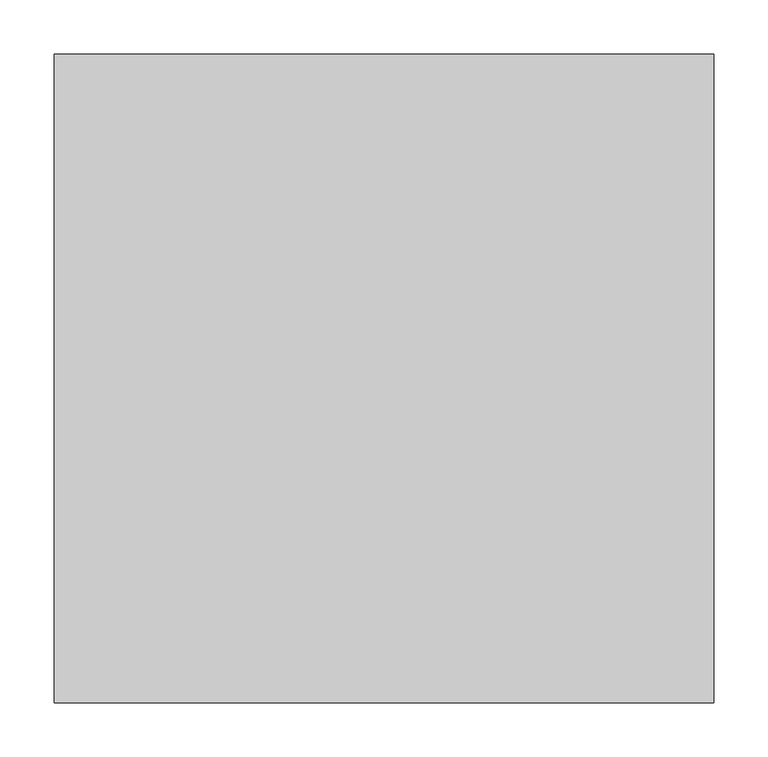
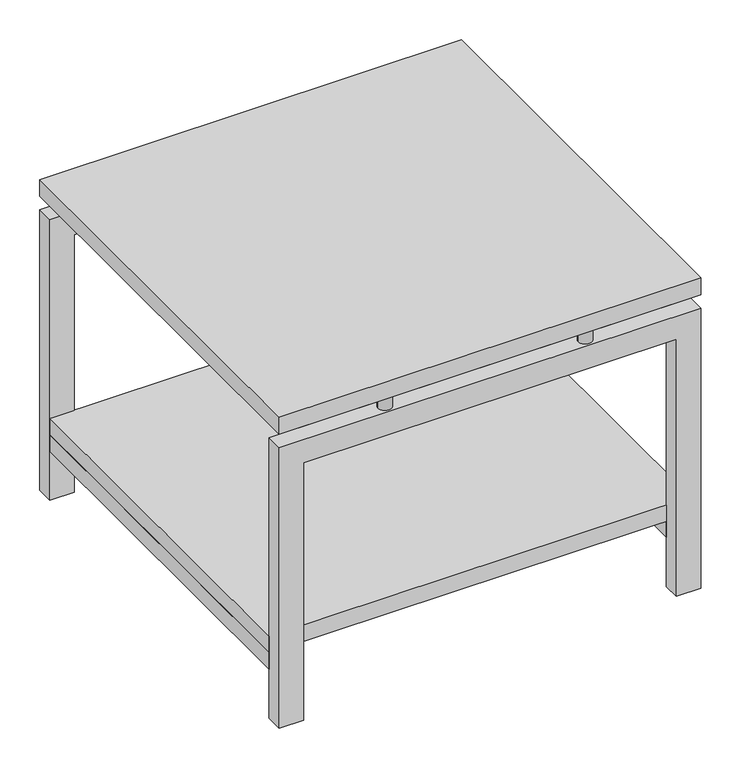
"""IFC4 building model written with IfcOpenShell, lengths in millimetres: furniture geometry, Mobiliário_MobiliáriodeEscritório_LinhaPERFECTA_Mesa de Centro - ZMC 0606_Marelli : Mobiliário_MobiliáriodeEscritório_LinhaPERFECTA_Mesa de Centro - ZMC 0606_Marelli."""

from ifc_helpers import new_model, si_unit, point, frame, frame_2d, origin, place, context, project, spatial, polyline, circle_curve, trimmed, segment, composite_curve, outline, extrude, source, transform, mapped, element, save


def furniture_a22a01db(model_context):
    return source(origin(), model_context, "Body", "SweptSolid", [
        extrude(outline(polyline([(610.0, 0.0), (0.0, 0.0), (0.0, 600.0), (610.0, 600.0), (610.0, 0.0)])), frame((0.0, 0.0, 449.3107024), z_axis=(0.0, 0.0, 1.0), x_axis=(1.0, 0.0, 0.0)), (0.0, 0.0, 1.0), 25.6892966),
        extrude(outline(polyline([(0.0, 35.0000007), (393.6999879, 35.0000007), (393.6999879, 575.0000044), (0.0, 575.0000044), (0.0, 610.0), (428.7178023, 610.0), (428.7178023, 0.0), (0.0, 0.0), (0.0, 35.0000007)])), frame((0.0, 0.0, 0.0), z_axis=(0.0, 1.0, 0.0), x_axis=(0.0, 0.0, 1.0)), (0.0, 0.0, 1.0), 25.0),
        extrude(outline(polyline([(0.0, 35.0000007), (393.6999879, 35.0000007), (393.6999879, 575.0000044), (0.0, 575.0000044), (0.0, 610.0), (428.7178023, 610.0), (428.7178023, 0.0), (0.0, 0.0), (0.0, 35.0000007)])), frame((0.0, 575.0, 0.0), z_axis=(0.0, 1.0, 0.0), x_axis=(0.0, 0.0, 1.0)), (0.0, 0.0, 1.0), 25.0),
        extrude(outline(polyline([(610.0, 575.0), (610.0, 25.0), (575.0000044, 25.0), (575.0000044, 575.0), (610.0, 575.0)])), frame((0.0, 0.0, 75.0), z_axis=(0.0, 0.0, 1.0), x_axis=(1.0, 0.0, 0.0)), (0.0, 0.0, 1.0), 25.0),
        extrude(outline(polyline([(34.9999956, 575.0), (34.9999956, 25.0), (0.0, 25.0), (0.0, 575.0), (34.9999956, 575.0)])), frame((0.0, 0.0, 75.0), z_axis=(0.0, 0.0, 1.0), x_axis=(1.0, 0.0, 0.0)), (0.0, 0.0, 1.0), 25.0),
        extrude(outline(polyline([(610.0, 575.0), (610.0, 25.0), (0.0, 25.0), (0.0, 575.0), (610.0, 575.0)])), frame((0.0, 0.0, 100.0), z_axis=(0.0, 0.0, 1.0), x_axis=(1.0, 0.0, 0.0)), (0.0, 0.0, 1.0), 25.0),
        extrude(outline(composite_curve([segment(trimmed(circle_curve(frame_2d((450.0001999, 587.5002)), 10.0), [point((440.0001999, 587.5002))], [point((460.0001999, 587.5002))], False, "CARTESIAN"), True, "CONTINUOUS"), segment(trimmed(circle_curve(frame_2d((450.0001999, 587.5002)), 10.0), [point((460.0001999, 587.5002))], [point((440.0001999, 587.5002))], False, "CARTESIAN"), True, "CONTINUOUS")], self_intersect=False)), frame((0.0, 0.0, 428.7178023), z_axis=(0.0, 0.0, 1.0), x_axis=(1.0, 0.0, 0.0)), (0.0, 0.0, 1.0), 20.5929),
        extrude(outline(composite_curve([segment(trimmed(circle_curve(frame_2d((160.0000004, 587.5002005)), 10.0000005), [point((149.9999999, 587.5002005))], [point((170.0000009, 587.5002005))], False, "CARTESIAN"), True, "CONTINUOUS"), segment(trimmed(circle_curve(frame_2d((160.0000004, 587.5002005)), 10.0000005), [point((170.0000009, 587.5002005))], [point((149.9999999, 587.5002005))], False, "CARTESIAN"), True, "CONTINUOUS")], self_intersect=False)), frame((0.0, 0.0, 428.7178023), z_axis=(0.0, 0.0, 1.0), x_axis=(1.0, 0.0, 0.0)), (0.0, 0.0, 1.0), 20.5929),
        extrude(outline(composite_curve([segment(trimmed(circle_curve(frame_2d((159.9999999, 12.4999)), 10.0), [point((149.9999999, 12.4999))], [point((169.9999999, 12.4999))], False, "CARTESIAN"), True, "CONTINUOUS"), segment(trimmed(circle_curve(frame_2d((159.9999999, 12.4999)), 10.0), [point((169.9999999, 12.4999))], [point((149.9999999, 12.4999))], False, "CARTESIAN"), True, "CONTINUOUS")], self_intersect=False)), frame((0.0, 0.0, 428.7178023), z_axis=(0.0, 0.0, 1.0), x_axis=(1.0, 0.0, 0.0)), (0.0, 0.0, 1.0), 20.5929),
        extrude(outline(composite_curve([segment(trimmed(circle_curve(frame_2d((450.0002004, 12.4998999)), 9.9999999), [point((440.0002005, 12.4998999))], [point((460.0002003, 12.4998999))], False, "CARTESIAN"), True, "CONTINUOUS"), segment(trimmed(circle_curve(frame_2d((450.0002004, 12.4998999)), 9.9999999), [point((460.0002003, 12.4998999))], [point((440.0002005, 12.4998999))], False, "CARTESIAN"), True, "CONTINUOUS")], self_intersect=False)), frame((0.0, 0.0, 428.7178023), z_axis=(0.0, 0.0, 1.0), x_axis=(1.0, 0.0, 0.0)), (0.0, 0.0, 1.0), 20.5929),
    ])


if __name__ == "__main__":
    model = new_model("IFC4")
    model_context = context("Model", 3, world=origin())
    ifc_project = project(units=[si_unit("LENGTHUNIT", "METRE", prefix="MILLI")], contexts=[model_context])
    site = spatial("IfcSite", under=ifc_project)
    building = spatial("IfcBuilding", under=site)
    placement = place(None, origin())
    furniture_shape = furniture_a22a01db(model_context)
    element("IfcFurniture", 1, ObjectType="Mobiliário_MobiliáriodeEscritório_LinhaPERFECTA_Mesa de Centro - ZMC 0606_Marelli : Mobiliário_MobiliáriodeEscritório_LinhaPERFECTA_Mesa de Centro - ZMC 0606_Marelli", at=placement, inside=building, context=model_context, shape_type="MappedRepresentation", body=[
        mapped(furniture_shape, transform((0.0, 0.0, 0.0), x_axis=(1.0, 0.0, 0.0), y_axis=(0.0, 1.0, 0.0), z_axis=(0.0, 0.0, 1.0))),
    ])
    save(model, "model.ifc")
